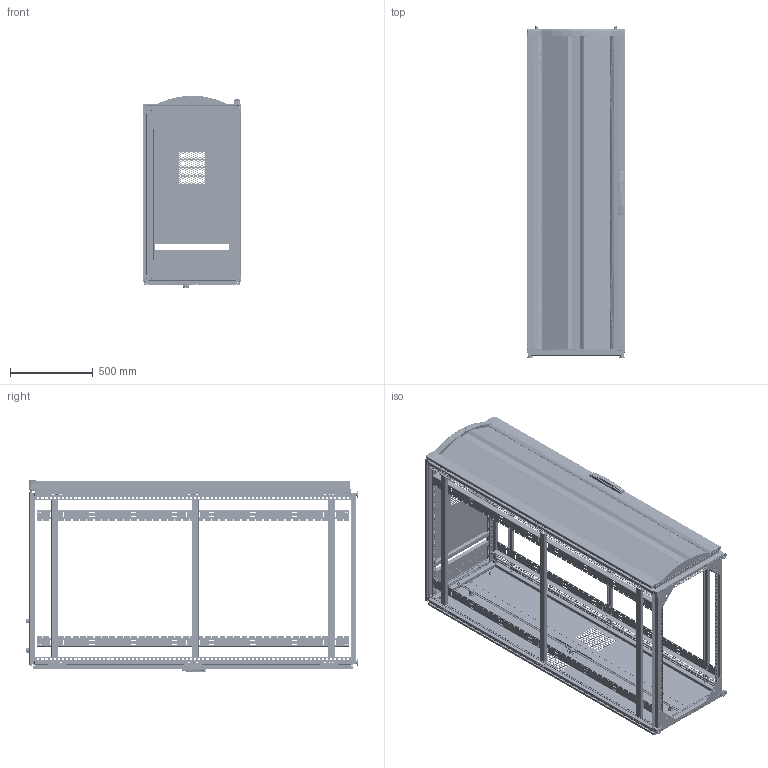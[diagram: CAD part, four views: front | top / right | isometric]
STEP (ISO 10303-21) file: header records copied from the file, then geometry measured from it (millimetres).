
FILE_DESCRIPTION (( 'STEP AP203' ), '1' );
FILE_NAME ('pscpc20611bns.STEP', '2013-02-20T19:22:03', ( 'User' ), ( 'Pentair Inc' ), 'SwSTEP 2.0', 'SolidWorks 2010', '' );
FILE_SCHEMA (( 'CONFIG_CONTROL_DESIGN' ));
Products named in the file (116): pscpc20611bns; 87794137_87794137; 60127013; 30127014; 30127077; 87780579; 87786840_87786840; 87751473_87751473; 87750022_87750022; 87751474_87751474; 87924209_2000x600; 87924561_Hinge Extrusion 2000; 87924564_Latch Extrusion assy 2000; 87939373_Latch Extrusion 2000; 87939353; 87939351_PEM FH-M4-8 X--C; 87924211_600; 87925709_2000X600; 87924516_600; 60127430; 11458037; 11458036; 51140001; 11358764; 11258013; 11258012; 11358763; 51231001; 11258014; 51145001_Extended; 11358765; 46120001_Compressed; 51223001; 51138001_Compressed; 60127093; 51137001; 60127212; 46139001_46139001; 60127224_60127224; 60127106_60127106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
Assembly tree (264 placements, depth 5):
  pscpc20611bns
    87790199  x9
    60127024_As installed  x12
    87566046_87566046  x4
    60127055  x4
    60127217_60127217  x3
      60127199_60127199
      56906712_56906712
      87790196_97790196
    89053432
      87417023  x2
      87788601_87788601
      87788602_87788602
      60100041_60100041  x2
        87931368_SLEEVE
        87931527_87931527
      60127101_60127101  x3
    89053433
      87417023  x2
      87792981  x2
      60127372_60127372
        11258029_11258029
        11358776_11358776
        11458171_11458171
        60127207
        11458172_11458172
        60127208
        11158140_11158140
        11258030_11258030
        11158141_11158141
        11158139_11158139
        11158180_11158180
      87938982_87938982
        11258598_11258598
        87950638_87950638
        64210001
        87927840_87927840
        87541994_Installed Height
        87541995
        99401452  x2
        64201001
      87792979  x2
      27131001  x2
      89053422
        60127101_60127101  x3
        60100041_60100041  x2
          87931368_SLEEVE
          87931527_87931527
        87931362_87931362  x2
        99411910_99411910  x2
        87788602_87788602
        87788599_87788599
      87932903  x2
      87788538_87788538  x2
      91120001_91120001  x2
    87794137_87794137
      60127013  x8
      87780579  x4
      87786840_87786840  x6
      30127014  x4
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Bounding box: 598.92 x 2011.04 x 1166.47 mm (x, y, z)
Volume: 15677896.7 mm3; surface area: 15174976.3 mm2
Topology: 297 solids, 318 shells, 31486 faces, 85973 edges, 55336 vertices
Faces by surface type: plane 16279, cylinder 11326, cone 1608, bspline 1371, torus 788, sphere 114
Entity records: 451283 total; most frequent: CARTESIAN_POINT 127683, ORIENTED_EDGE 64512, DIRECTION 61891, EDGE_CURVE 32274, AXIS2_PLACEMENT_3D 21845, VERTEX_POINT 20969, VECTOR 18201, LINE 18201
